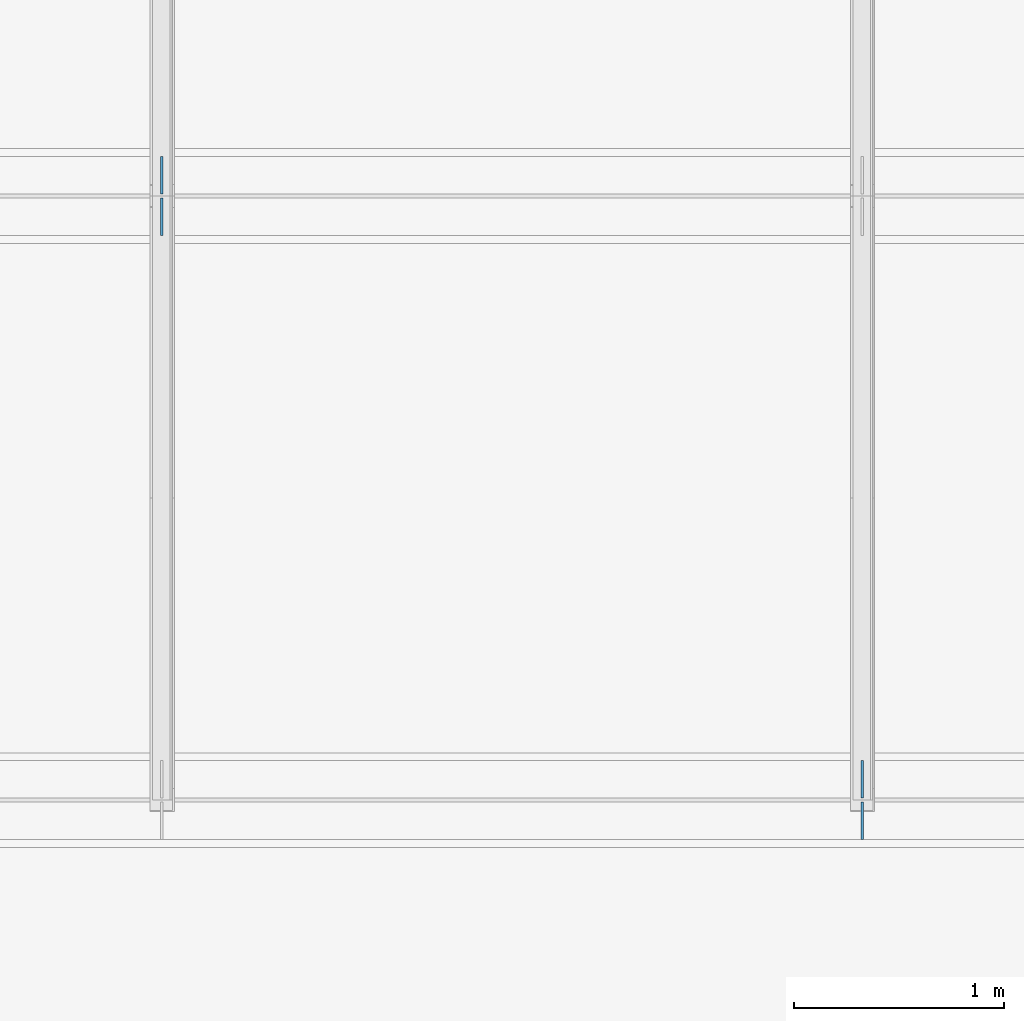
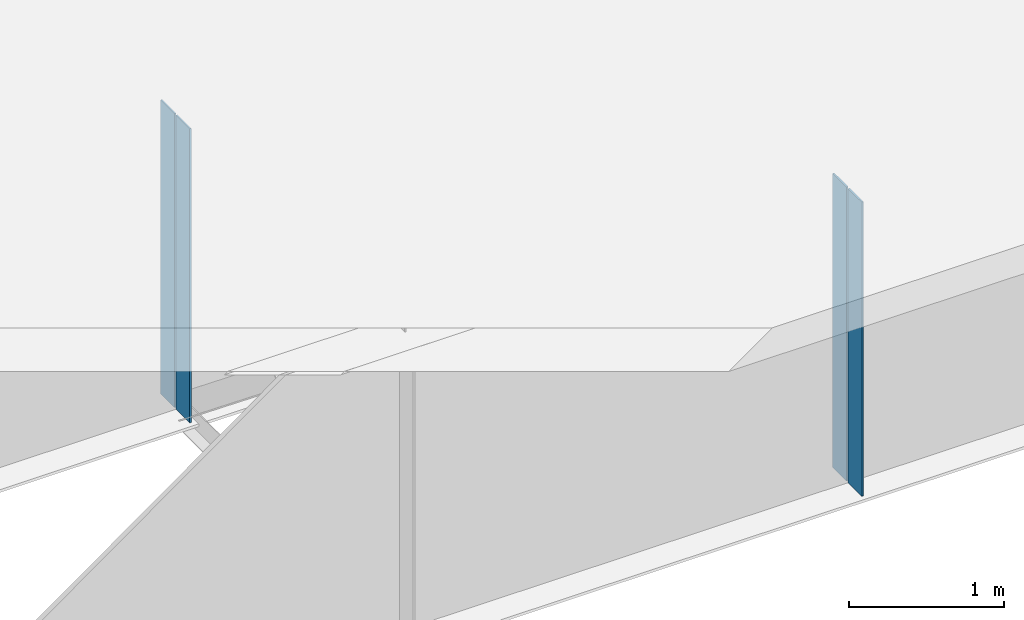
# One storey, part 5 of 12: 4 plates.
"""IFC4 building model written with IfcOpenShell, lengths in metres."""

from ifc_helpers import new_model, si_unit, frame, origin, origin_with_axes, origin_2d_with_axis, place, context, subcontext, project, spatial, rectangle, extrude, element, save


model = new_model("IFC4")

# Units and contexts
model_context = context("Model", 3, precision=1e-05, world=origin())
body_context = subcontext(model_context, "Body", "Model", "MODEL_VIEW")
ifc_project = project(units=[si_unit("LENGTHUNIT", "METRE"), si_unit("AREAUNIT", "SQUARE_METRE"), si_unit("VOLUMEUNIT", "CUBIC_METRE"), si_unit("PLANEANGLEUNIT", "RADIAN")], contexts=[model_context])

# Site, building, storey
site_placement = place(None, origin_with_axes())
site = spatial("IfcSite", under=ifc_project, at=site_placement, Name="Default Site")
building_placement = place(site_placement, origin_with_axes())
building = spatial("IfcBuilding", under=site, at=building_placement, Name="Bridge Structure")
storey_placement = place(building_placement, origin_with_axes())
storey = spatial("IfcBuildingStorey", under=building, at=storey_placement, Name="Superstructure")

# Plates
for number, where, z_axis, x_axis, name in (
    (1, (19.998, -2.77625, -1.155), (0.0, 0.0, 1.0), (1.0, 0.0, 0.0), "Intermediate Stiffener 1"),
    (2, (19.998, -2.97375, -1.155), (0.0, 0.0, 1.0), (1.0, 0.0, 0.0), "Intermediate Stiffener 1"),
    (3, (16.665, 0.09875, -1.155), (0.0, 0.0, 1.0), (1.0, 0.0, 0.0), "Intermediate Stiffener 2"),
    (4, (16.665, -0.09875, -1.155), (0.0, 0.0, 1.0), (1.0, 0.0, 0.0), "Intermediate Stiffener 2"),
):
    element("IfcPlate", number, at=place(storey_placement, frame(where, z_axis=z_axis, x_axis=x_axis)), inside=storey, Name=name, context=body_context, shape_type="SweptSolid", body=[
        extrude(rectangle(XDim=0.012, YDim=0.1775, at=origin_2d_with_axis()), origin_with_axes(), (0.0, 0.0, 1.0), 2.31),
    ])

save(model, "model.ifc")
